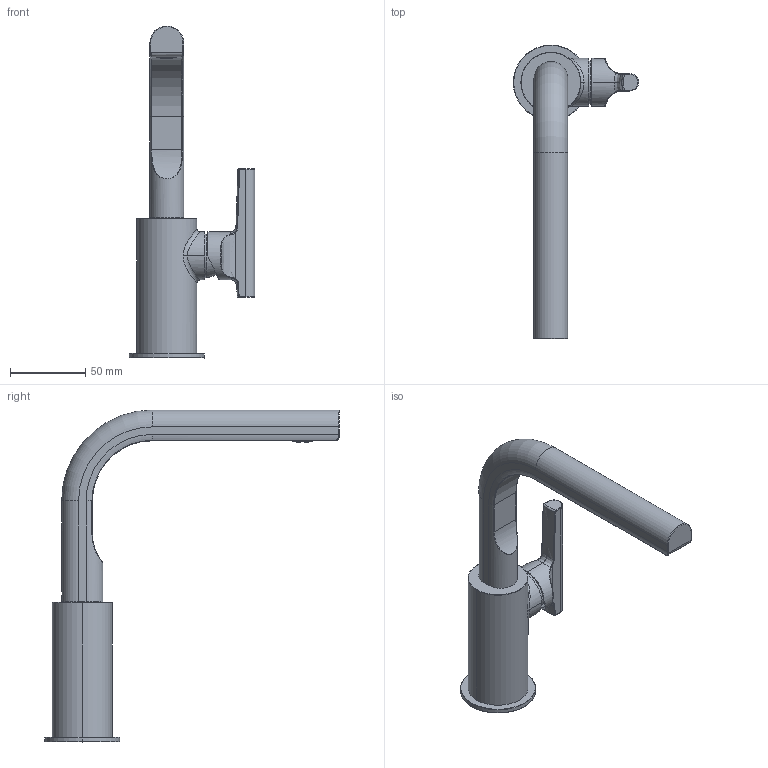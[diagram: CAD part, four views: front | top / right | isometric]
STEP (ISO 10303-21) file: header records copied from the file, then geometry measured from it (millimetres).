
FILE_DESCRIPTION((''),'2;1');
FILE_NAME('DIS_3D_J304WF','2026-02-04T08:15:01',('Luca'),(''),'CREO PARAMETRIC BY PTC INC, 2025010','CREO PARAMETRIC BY PTC INC, 2025010','');
FILE_SCHEMA(('AUTOMOTIVE_DESIGN { 1 0 10303 214 1 1 1 1 }'));
Length unit declared in the file: millimetre
Products named in the file (1): DIS_3D_J304WF
Bounding box: 83.5 x 196.25 x 221.3 mm (x, y, z)
Volume: 228007.7 mm3; surface area: 56082.1 mm2
Topology: 1 solids, 9 shells, 861 faces, 2356 edges, 1521 vertices
Faces by surface type: plane 548, cylinder 174, bspline 53, cone 37, torus 34, sphere 11, extrusion 4
Entity records: 45675 total; most frequent: CARTESIAN_POINT 17565, ORIENTED_EDGE 4686, DIRECTION 4568, EDGE_CURVE 2343, AXIS2_PLACEMENT_3D 1670, VERTEX_POINT 1521, VECTOR 1225, LINE 1221
